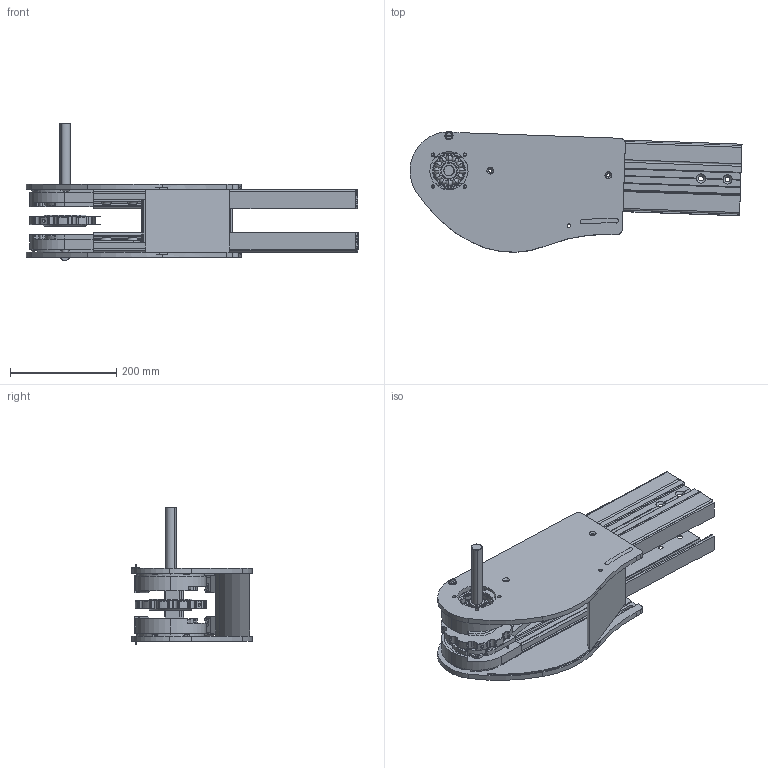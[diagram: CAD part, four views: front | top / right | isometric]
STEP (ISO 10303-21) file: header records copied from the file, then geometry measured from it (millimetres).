
FILE_DESCRIPTION (( 'STEP AP203' ), '1' );
FILE_NAME ('R3M-G20.STEP', '2009-01-13T08:20:44', ( 'faber' ), ( '' ), 'SwSTEP 2.0', 'SolidWorks 2008', '' );
FILE_SCHEMA (( 'CONFIG_CONTROL_DESIGN' ));
Length unit declared in the file: millimetre
Products named in the file (1): R3M-G20
Bounding box: 626.26 x 227.35 x 259.47 mm (x, y, z)
Surface area: 1002696.3 mm2 (no closed solid volume)
Topology: 0 solids, 34 shells, 685 faces, 2570 edges, 1815 vertices
Faces by surface type: cylinder 307, plane 262, cone 64, torus 24, sphere 24, bspline 4
Entity records: 28962 total; most frequent: CARTESIAN_POINT 7662, DIRECTION 4530, ORIENTED_EDGE 4127, EDGE_CURVE 2522, VERTEX_POINT 1791, AXIS2_PLACEMENT_3D 1673, LINE 1184, VECTOR 1184
